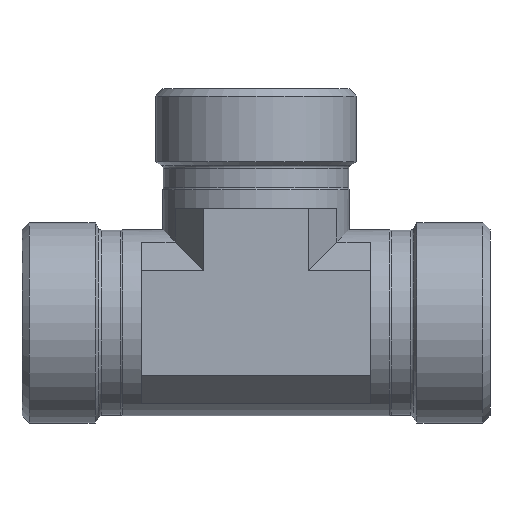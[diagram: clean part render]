
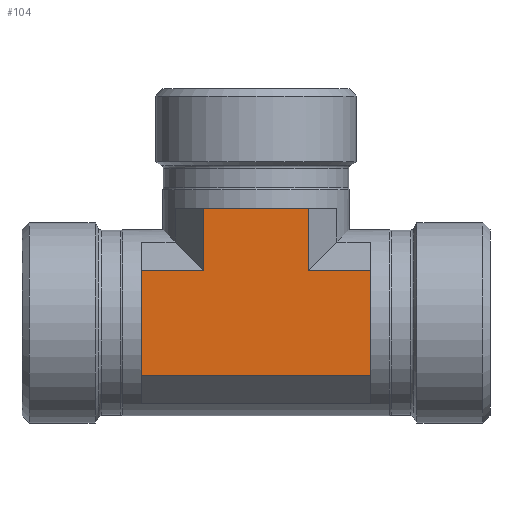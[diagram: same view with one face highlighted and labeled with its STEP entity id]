
A CAD part, front view. The second image highlights one B-rep face of the part: STEP entity #104.
In plain terms, the highlighted planar face has unit normal (0, -1, 0).
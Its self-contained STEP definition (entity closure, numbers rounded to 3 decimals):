
#104 = ADVANCED_FACE( '', ( #249 ), #250, .F. );
#249 = FACE_OUTER_BOUND( '', #448, .T. );
#250 = PLANE( '', #449 );
#448 = EDGE_LOOP( '', ( #693, #694, #695, #696, #697, #698, #699, #700 ) );
#449 = AXIS2_PLACEMENT_3D( '', #701, #702, #703 );
#693 = ORIENTED_EDGE( '', *, *, #1024, .F. );
#694 = ORIENTED_EDGE( '', *, *, #1025, .F. );
#695 = ORIENTED_EDGE( '', *, *, #1005, .F. );
#696 = ORIENTED_EDGE( '', *, *, #1026, .F. );
#697 = ORIENTED_EDGE( '', *, *, #1027, .F. );
#698 = ORIENTED_EDGE( '', *, *, #1028, .F. );
#699 = ORIENTED_EDGE( '', *, *, #979, .F. );
#700 = ORIENTED_EDGE( '', *, *, #1029, .F. );
#701 = CARTESIAN_POINT( '', ( -24., -20., -11. ) );
#702 = DIRECTION( '', ( 0., 1., 0. ) );
#703 = DIRECTION( '', ( 0., 0., 1. ) );
#979 = EDGE_CURVE( '', #1124, #1120, #1126, .T. );
#1005 = EDGE_CURVE( '', #1170, #1171, #1172, .T. );
#1024 = EDGE_CURVE( '', #1202, #1203, #1204, .T. );
#1025 = EDGE_CURVE( '', #1171, #1202, #1205, .T. );
#1026 = EDGE_CURVE( '', #1206, #1170, #1207, .T. );
#1027 = EDGE_CURVE( '', #1208, #1206, #1209, .T. );
#1028 = EDGE_CURVE( '', #1120, #1208, #1210, .T. );
#1029 = EDGE_CURVE( '', #1203, #1124, #1211, .T. );
#1120 = VERTEX_POINT( '', #1324 );
#1124 = VERTEX_POINT( '', #1330 );
#1126 = LINE( '', #1333, #1334 );
#1170 = VERTEX_POINT( '', #1386 );
#1171 = VERTEX_POINT( '', #1387 );
#1172 = LINE( '', #1388, #1389 );
#1202 = VERTEX_POINT( '', #1428 );
#1203 = VERTEX_POINT( '', #1429 );
#1204 = LINE( '', #1430, #1431 );
#1205 = LINE( '', #1432, #1433 );
#1206 = VERTEX_POINT( '', #1434 );
#1207 = LINE( '', #1435, #1436 );
#1208 = VERTEX_POINT( '', #1437 );
#1209 = LINE( '', #1438, #1439 );
#1210 = LINE( '', #1440, #1441 );
#1211 = LINE( '', #1442, #1443 );
#1324 = CARTESIAN_POINT( '', ( -24., -20., -11. ) );
#1330 = CARTESIAN_POINT( '', ( 24., -20., -11. ) );
#1333 = CARTESIAN_POINT( '', ( 24., -20., -11. ) );
#1334 = VECTOR( '', #1574, 1000. );
#1386 = CARTESIAN_POINT( '', ( -11., -20., 24. ) );
#1387 = CARTESIAN_POINT( '', ( 11., -20., 24. ) );
#1388 = CARTESIAN_POINT( '', ( -11., -20., 24. ) );
#1389 = VECTOR( '', #1613, 1000. );
#1428 = CARTESIAN_POINT( '', ( 11., -20., 11. ) );
#1429 = CARTESIAN_POINT( '', ( 24., -20., 11. ) );
#1430 = CARTESIAN_POINT( '', ( 11., -20., 11. ) );
#1431 = VECTOR( '', #1638, 1000. );
#1432 = CARTESIAN_POINT( '', ( 11., -20., 24. ) );
#1433 = VECTOR( '', #1639, 1000. );
#1434 = CARTESIAN_POINT( '', ( -11., -20., 11. ) );
#1435 = CARTESIAN_POINT( '', ( -11., -20., 11. ) );
#1436 = VECTOR( '', #1640, 1000. );
#1437 = CARTESIAN_POINT( '', ( -24., -20., 11. ) );
#1438 = CARTESIAN_POINT( '', ( -24., -20., 11. ) );
#1439 = VECTOR( '', #1641, 1000. );
#1440 = CARTESIAN_POINT( '', ( -24., -20., -11. ) );
#1441 = VECTOR( '', #1642, 1000. );
#1442 = CARTESIAN_POINT( '', ( 24., -20., 11. ) );
#1443 = VECTOR( '', #1643, 1000. );
#1574 = DIRECTION( '', ( -1., 0., 0. ) );
#1613 = DIRECTION( '', ( 1., 0., 0. ) );
#1638 = DIRECTION( '', ( 1., 0., 0. ) );
#1639 = DIRECTION( '', ( 0., 0., -1. ) );
#1640 = DIRECTION( '', ( 0., 0., 1. ) );
#1641 = DIRECTION( '', ( 1., 0., 0. ) );
#1642 = DIRECTION( '', ( 0., 0., 1. ) );
#1643 = DIRECTION( '', ( 0., 0., -1. ) );
